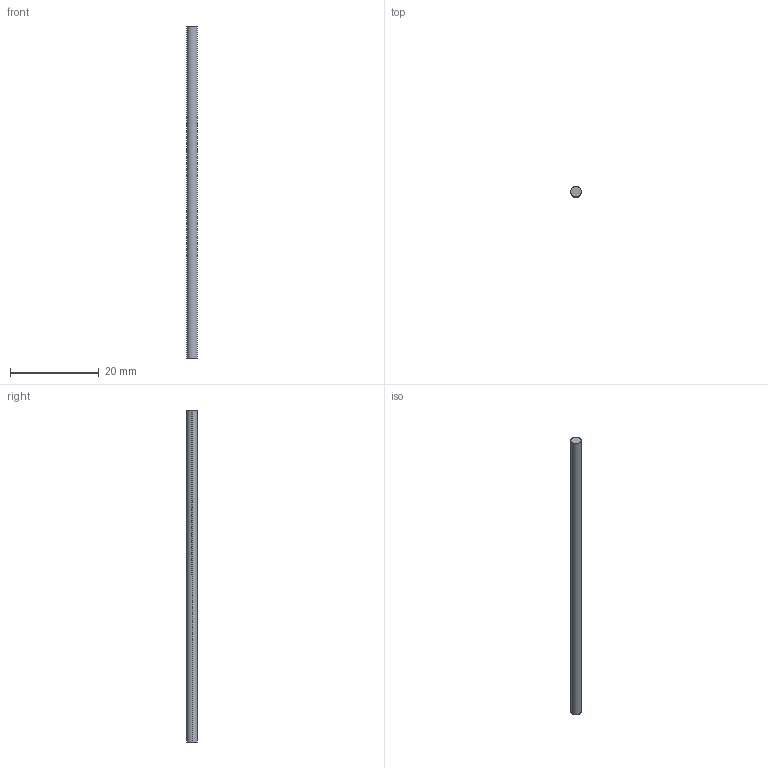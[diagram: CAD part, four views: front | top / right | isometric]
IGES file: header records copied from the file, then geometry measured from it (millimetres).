
Start section: SolidWorks IGES file using analytic representation for surfaces
Global section: file name: Z:\Mes documents\ATAO iges\Gamme CL\CL 418\418.030.00.IGS; native system: SolidWorks 2008; preprocessor: SolidWorks 2008; author: cbrechard; date: 110628.182607; units: millimetre
Bounding box: 2.4 x 2.4 x 75 mm (x, y, z)
Surface area: 574.5 mm2 (no closed solid volume)
Topology: 0 solids, 0 shells, 4 faces, 72 edges, 72 vertices
Faces by surface type: revolution 2, bspline 2
